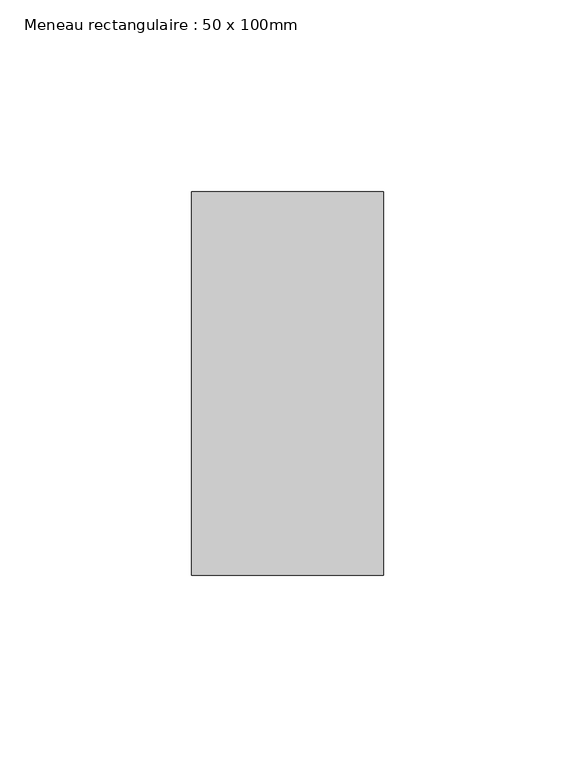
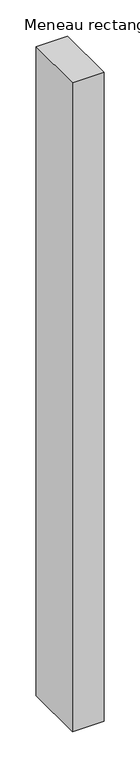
"""IFC4 building model written with IfcOpenShell, lengths in millimetres: member geometry, Meneau rectangulaire : 50 x 100mm."""

from ifc_helpers import new_model, si_unit, frame, origin, place, context, project, spatial, polyline, outline, extrude, source, transform, mapped, element, save


def meneau_rectangulaire_50_x_100mm_d37e7714(model_context):
    return source(origin(), model_context, "Body", "SweptSolid", [
        extrude(outline(polyline([(0.0, 50.0), (0.0, -50.0), (-50.0, -50.0), (-50.0, 50.0), (0.0, 50.0)])), frame((0.0, 0.0, -1090.8573191), z_axis=(0.0, 0.0, 1.0), x_axis=(1.0, 0.0, 0.0)), (0.0, 0.0, 1.0), 1090.8573191),
    ])


if __name__ == "__main__":
    model = new_model("IFC4")
    model_context = context("Model", 3, world=origin())
    ifc_project = project(units=[si_unit("LENGTHUNIT", "METRE", prefix="MILLI")], contexts=[model_context])
    site = spatial("IfcSite", under=ifc_project)
    building = spatial("IfcBuilding", under=site)
    placement = place(None, origin())
    meneau_rectangulaire_50_x_100mm_shape = meneau_rectangulaire_50_x_100mm_d37e7714(model_context)
    element("IfcMember", 1, ObjectType="Meneau rectangulaire : 50 x 100mm", at=placement, inside=building, context=model_context, shape_type="MappedRepresentation", body=[
        mapped(meneau_rectangulaire_50_x_100mm_shape, transform((0.0, 0.0, 0.0), x_axis=(1.0, 0.0, 0.0), y_axis=(0.0, 1.0, 0.0), z_axis=(0.0, 0.0, 1.0))),
    ])
    save(model, "model.ifc")
